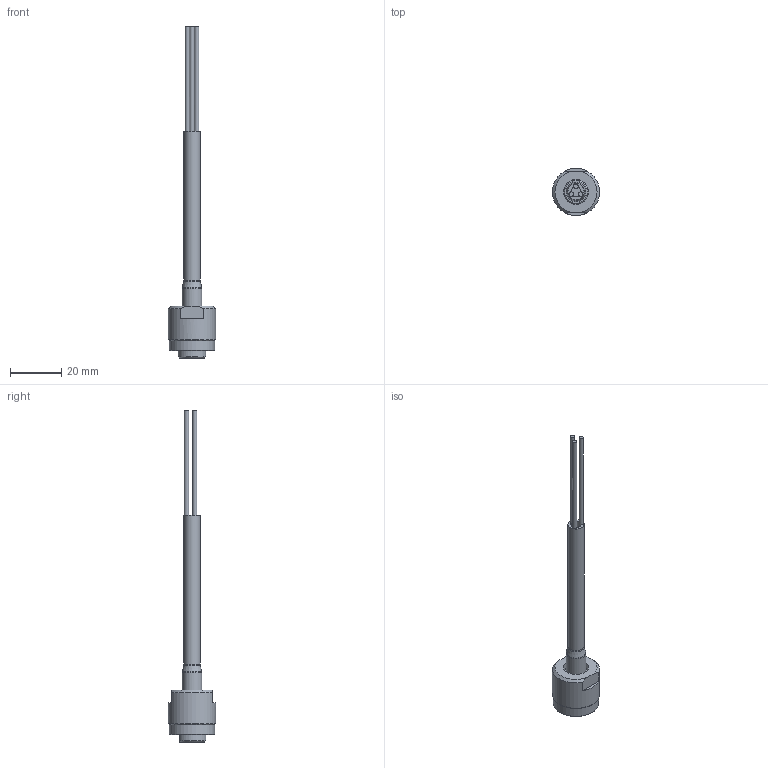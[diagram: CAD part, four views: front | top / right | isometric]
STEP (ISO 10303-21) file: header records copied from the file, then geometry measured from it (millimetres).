
FILE_DESCRIPTION (( 'STEP AP203' ), '1' );
FILE_NAME ('COB-123PX Cable 3 Pin Power.STEP', '2022-05-24T16:06:51', ( '' ), ( '' ), 'SwSTEP 2.0', 'SolidWorks 2020', '' );
FILE_SCHEMA (( 'CONFIG_CONTROL_DESIGN' ));
Length unit declared in the file: millimetre
Products named in the file (1): COB-123PX Cable 3 Pin Power
Bounding box: 18.5 x 18.5 x 130 mm (x, y, z)
Volume: 5581.4 mm3; surface area: 6713.2 mm2
Topology: 3 solids, 3 shells, 97 faces, 220 edges, 142 vertices
Faces by surface type: plane 29, cylinder 28, cone 21, torus 16, bspline 3
Full cylindrical faces by diameter (mm): 1.7 x3, 2.05 x3, 6.35 x1, 7.71 x1, 8.3 x1, 9.5 x1, 9.562 x1, 9.75 x1, 12 x2, 16 x1, 17.75 x1, 18.5 x1
Entity records: 3765 total; most frequent: CARTESIAN_POINT 1821, DIRECTION 391, ORIENTED_EDGE 332, AXIS2_PLACEMENT_3D 183, EDGE_CURVE 166, EDGE_LOOP 145, VERTEX_POINT 127, FACE_OUTER_BOUND 116
